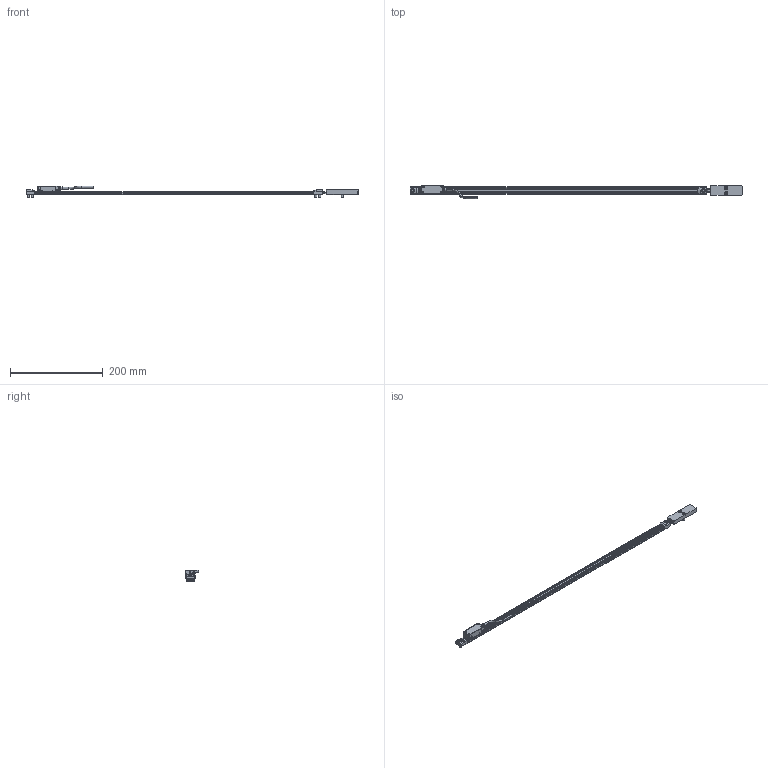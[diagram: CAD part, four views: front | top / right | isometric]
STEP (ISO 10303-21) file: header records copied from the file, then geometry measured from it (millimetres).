
FILE_DESCRIPTION(('Creo Elements/Direct Modeling STEP Export'),'2;1');
FILE_NAME('EXT_EXTA-540.stp','2017-02-20T12:51:18',(''),(''),'Creo Elements/Direct Modeling STEP processor for AP214 (Solid Model)','Creo Elements/Direct Modeling 18.1H 24-Oct-2015 (C) Parametric Technology GmbH','');
FILE_SCHEMA(('AUTOMOTIVE_DESIGN { 1 0 10303 214 1 1 1 1 }'));
Length unit declared in the file: millimetre
Products named in the file (15): RESORTE_TENSOR; DIN_433_4.3_ARANDELA_INOX; TIRANTE_TENSOR; CARCASA_TENSOR; DIN912_M4X45_TORNILLO; DIN7984_M4X14_TORNILLO; SUBCONJUNTO_TENSOR_REGLA_EXPOSED_TENSADA; BRIDA_INFERIOR; BRIDA_SUPERIOR; DIN7984_M4X8_TORNILLO; SUBC_BRIDA_EXPOSED; FLEJE_REGLA_EXPOSED_ABS_GUIADA.1; CABEZA_REGLA_EXPOSED; PERFIL_ALTO_EXPOSED; EXT_EXTA-540
Assembly tree (18 placements, depth 3):
  EXT_EXTA-540
    PERFIL_ALTO_EXPOSED
    CABEZA_REGLA_EXPOSED
    FLEJE_REGLA_EXPOSED_ABS_GUIADA.1
    SUBC_BRIDA_EXPOSED  x2
      DIN7984_M4X14_TORNILLO
      DIN7984_M4X8_TORNILLO
      BRIDA_SUPERIOR
      BRIDA_INFERIOR
    SUBCONJUNTO_TENSOR_REGLA_EXPOSED_TENSADA
      DIN7984_M4X14_TORNILLO  x2
      DIN912_M4X45_TORNILLO
      CARCASA_TENSOR
      TIRANTE_TENSOR
      DIN_433_4.3_ARANDELA_INOX  x2
      RESORTE_TENSOR
Bounding box: 714 x 29.33 x 25.2 mm (x, y, z)
Volume: 78507.2 mm3; surface area: 62908 mm2
Topology: 19 solids, 21 shells, 603 faces, 1556 edges, 1027 vertices
Faces by surface type: plane 348, cylinder 177, cone 54, torus 22, bspline 2
Entity records: 19548 total; most frequent: CARTESIAN_POINT 6338, ORIENTED_EDGE 2498, DIRECTION 2217, EDGE_CURVE 1249, VERTEX_POINT 824, VECTOR 801, LINE 801, AXIS2_PLACEMENT_3D 708
